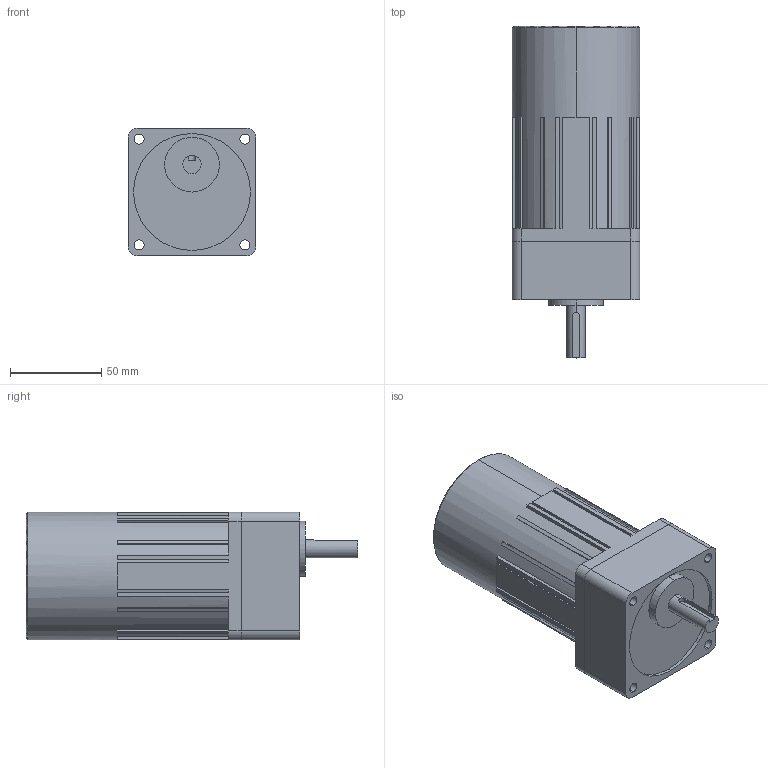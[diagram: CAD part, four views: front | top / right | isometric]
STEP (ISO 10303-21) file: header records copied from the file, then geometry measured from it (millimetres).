
FILE_DESCRIPTION (( 'STEP AP203' ), '1' );
FILE_NAME ('L7HK003B + L7R15PBLE.STEP', '2018-09-20T05:40:31', ( '' ), ( '' ), 'SwSTEP 2.0', 'SolidWorks 2017', '' );
FILE_SCHEMA (( 'CONFIG_CONTROL_DESIGN' ));
Length unit declared in the file: millimetre
Products named in the file (1): L7HK003B + L7R15PBLE
Bounding box: 70 x 182 x 70 mm (x, y, z)
Volume: 616620.6 mm3; surface area: 61442.8 mm2
Topology: 2 solids, 2 shells, 137 faces, 382 edges, 252 vertices
Faces by surface type: plane 102, cylinder 33, cone 2
Entity records: 4534 total; most frequent: CARTESIAN_POINT 802, DIRECTION 765, ORIENTED_EDGE 764, EDGE_CURVE 382, VECTOR 271, LINE 271, VERTEX_POINT 252, AXIS2_PLACEMENT_3D 247
